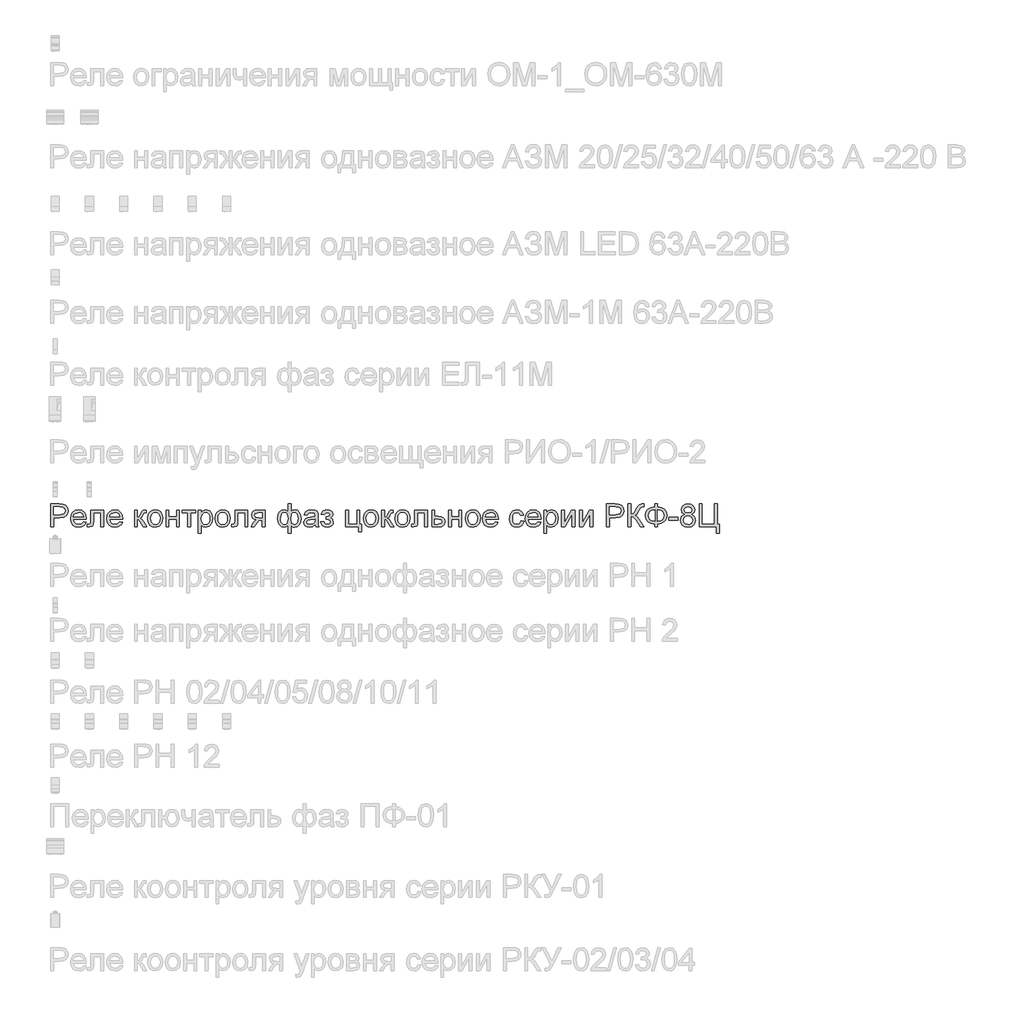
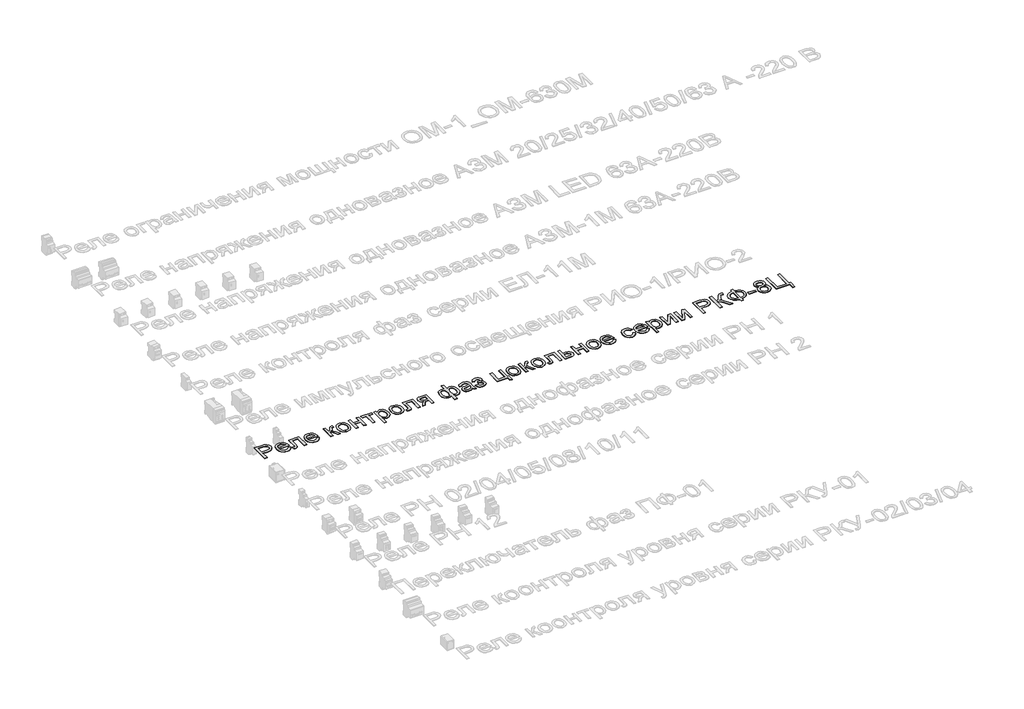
# One storey, part 9 of 34: 1 proxy.
"""IFC4 building model written with IfcOpenShell, lengths in millimetres."""

from ifc_helpers import new_model, si_unit, frame, origin, place, context, project, spatial, polyline, outline, extrude, element, save

model = new_model("IFC4")

# Units and contexts
model_context = context("Model", 3, world=origin())
ifc_project = project(units=[si_unit("LENGTHUNIT", "METRE", prefix="MILLI")], contexts=[model_context])

# Site, building, storey
site = spatial("IfcSite", under=ifc_project)
building = spatial("IfcBuilding", under=site)
storey = spatial("IfcBuildingStorey", under=building, Name="Этаж 01", Elevation=0.0)

# Proxy
placement = place(None, origin())
element("IfcBuildingElementProxy", 1, Name="Надпись на модели 1", ObjectType="Надпись на модели 1", at=placement, inside=storey, context=model_context, shape_type="SweptSolid", body=[
    extrude(outline(polyline([(-19039.0125911, 10706.235284), (-19039.0125911, 10806.6915941), (-19001.7829332, 10806.6915941), (-18986.7733478, 10805.735101), (-18974.5719283, 10801.0384742), (-18966.6624654, 10791.3263895), (-18963.6703585, 10777.6289165), (-18965.6906438, 10765.7892476), (-18971.7514996, 10755.9238788), (-18983.0853308, 10749.2652147), (-19000.9245418, 10747.04566), (-19026.4555523, 10747.04566), (-19026.4555523, 10706.235284), (-19039.0125911, 10706.235284)]), holes=[polyline([(-19026.4555523, 10759.6026988), (-19000.1887779, 10759.6026988), (-18981.6965762, 10764.2134864), (-18977.594692, 10769.7623732), (-18976.2273972, 10777.1874581), (-18979.4524961, 10787.5862559), (-18987.9260447, 10793.2761641), (-19000.4830834, 10794.1345554), (-19026.4555523, 10794.1345554), (-19026.4555523, 10759.6026988)])]), frame((0.0, 0.0, 40.0), z_axis=(0.0, 0.0, 1.0), x_axis=(1.0, 0.0, 0.0)), (0.0, 0.0, 1.0), 2.0),
    extrude(outline(polyline([(-18896.3234279, 10728.2101018), (-18884.0116438, 10726.640472), (-18888.4476875, 10717.3637143), (-18895.5263502, 10710.4291387), (-18905.0882164, 10706.1065253), (-18916.9738705, 10704.6656541), (-18931.7075445, 10707.1519233), (-18943.0444413, 10714.6107308), (-18950.2733225, 10726.5576985), (-18952.6829495, 10742.5084487), (-18950.248797, 10758.9956935), (-18942.9463394, 10771.3258717), (-18931.7627268, 10779.0146054), (-18917.6851091, 10781.5775166), (-18904.0458841, 10779.0207367), (-18893.14738, 10771.3503971), (-18886.0012722, 10759.0447444), (-18883.6192363, 10742.5820251), (-18883.6928127, 10739.1975108), (-18940.1259108, 10739.1975108), (-18937.9523413, 10729.7981258), (-18932.9031609, 10722.8880756), (-18925.6160317, 10718.6390386), (-18916.7286159, 10717.2226929), (-18904.4168318, 10719.8469178), (-18896.3234279, 10728.2101018)]), holes=[polyline([(-18940.1259108, 10751.7545495), (-18896.1762751, 10751.7545495), (-18901.2039957, 10763.1343659), (-18908.5248474, 10767.5489499), (-18917.73416, 10769.0204778), (-18933.1974665, 10764.323851), (-18938.0627059, 10758.8332123), (-18940.1259108, 10751.7545495)])]), frame((0.0, 0.0, 40.0), z_axis=(0.0, 0.0, 1.0), x_axis=(1.0, 0.0, 0.0)), (0.0, 0.0, 1.0), 2.0),
    extrude(outline(polyline([(-18864.7836782, 10780.0078868), (-18808.2770037, 10780.0078868), (-18808.2770037, 10706.3088604), (-18820.8340425, 10706.3088604), (-18820.8340425, 10767.450848), (-18852.2266394, 10767.450848), (-18852.2266394, 10732.2568038), (-18853.072768, 10716.0209451), (-18857.7203439, 10709.1660772), (-18868.7077528, 10706.235284), (-18878.9103468, 10706.8729461), (-18878.9103468, 10718.7923228), (-18873.294015, 10718.7923228), (-18867.6163695, 10719.564875), (-18865.3477639, 10722.0174216), (-18864.7836782, 10732.9680423), (-18864.7836782, 10780.0078868)])), frame((0.0, 0.0, 40.0), z_axis=(0.0, 0.0, 1.0), x_axis=(1.0, 0.0, 0.0)), (0.0, 0.0, 1.0), 2.0),
    extrude(outline(polyline([(-18737.7908134, 10728.2101018), (-18725.4790293, 10726.640472), (-18729.915073, 10717.3637143), (-18736.9937358, 10710.4291387), (-18746.555602, 10706.1065253), (-18758.4412561, 10704.6656541), (-18773.17493, 10707.1519233), (-18784.5118268, 10714.6107308), (-18791.740708, 10726.5576985), (-18794.1503351, 10742.5084487), (-18791.7161826, 10758.9956935), (-18784.4137249, 10771.3258717), (-18773.2301123, 10779.0146054), (-18759.1524946, 10781.5775166), (-18745.5132696, 10779.0207367), (-18734.6147655, 10771.3503971), (-18727.4686578, 10759.0447444), (-18725.0866219, 10742.5820251), (-18725.1601983, 10739.1975108), (-18781.5932963, 10739.1975108), (-18779.4197269, 10729.7981258), (-18774.3705465, 10722.8880756), (-18767.0834173, 10718.6390386), (-18758.1960014, 10717.2226929), (-18745.8842173, 10719.8469178), (-18737.7908134, 10728.2101018)]), holes=[polyline([(-18781.5932963, 10751.7545495), (-18737.6436606, 10751.7545495), (-18742.6713812, 10763.1343659), (-18749.9922329, 10767.5489499), (-18759.2015455, 10769.0204778), (-18774.6648521, 10764.323851), (-18779.5300915, 10758.8332123), (-18781.5932963, 10751.7545495)])]), frame((0.0, 0.0, 40.0), z_axis=(0.0, 0.0, 1.0), x_axis=(1.0, 0.0, 0.0)), (0.0, 0.0, 1.0), 2.0),
    extrude(outline(polyline([(-18673.2888369, 10780.0078868), (-18660.7317982, 10780.0078868), (-18660.7317982, 10748.6152898), (-18652.3195632, 10750.8716327), (-18645.4279072, 10764.0172827), (-18639.7012108, 10775.3603109), (-18634.6489647, 10779.0513936), (-18625.4641776, 10780.0078868), (-18623.0606819, 10780.0078868), (-18623.0606819, 10767.3772716), (-18626.4451962, 10767.450848), (-18632.5765628, 10766.1264728), (-18636.8930449, 10757.8613906), (-18641.9575537, 10748.9218582), (-18649.0576762, 10744.5440624), (-18641.1359506, 10739.6573633), (-18633.3613777, 10729.3627988), (-18619.9214222, 10706.235284), (-18634.1952436, 10706.235284), (-18647.365419, 10728.8722894), (-18653.9872949, 10738.449484), (-18660.7317982, 10740.7671406), (-18660.7317982, 10706.235284), (-18673.2888369, 10706.235284), (-18673.2888369, 10780.0078868)])), frame((0.0, 0.0, 40.0), z_axis=(0.0, 0.0, 1.0), x_axis=(1.0, 0.0, 0.0)), (0.0, 0.0, 1.0), 2.0),
    extrude(outline(polyline([(-18615.2125326, 10743.1215854), (-18612.4963372, 10760.9086798), (-18604.347751, 10773.4105363), (-18594.2800471, 10779.5357715), (-18582.2257804, 10781.5775166), (-18569.0341452, 10779.0912475), (-18558.4973917, 10771.63244), (-18551.5904073, 10759.7897054), (-18549.2880791, 10744.151655), (-18553.3593065, 10721.8089551), (-18565.2173695, 10709.1660772), (-18582.2257804, 10704.6656541), (-18595.5768311, 10707.1427262), (-18606.1013219, 10714.5739426), (-18612.9347299, 10726.6649975), (-18615.2125326, 10743.1215854)]), holes=[polyline([(-18602.6554939, 10743.1461108), (-18601.20236, 10731.7816229), (-18596.8429583, 10723.6851533), (-18590.2823961, 10718.838308), (-18582.2257804, 10717.2226929), (-18574.2059529, 10718.8475051), (-18567.6576534, 10723.7219415), (-18563.2982517, 10731.92571), (-18561.8451179, 10743.5385183), (-18563.3074488, 10754.5719125), (-18567.6944416, 10762.5580175), (-18574.2519382, 10767.4048627), (-18582.2257804, 10769.0204778), (-18590.2823961, 10767.4109941), (-18596.8429583, 10762.5825429), (-18601.20236, 10754.5044674), (-18602.6554939, 10743.1461108)])]), frame((0.0, 0.0, 40.0), z_axis=(0.0, 0.0, 1.0), x_axis=(1.0, 0.0, 0.0)), (0.0, 0.0, 1.0), 2.0),
    extrude(outline(polyline([(-18535.1614105, 10780.0078868), (-18522.6043717, 10780.0078868), (-18522.6043717, 10751.7545495), (-18489.6421449, 10751.7545495), (-18489.6421449, 10780.0078868), (-18477.0851062, 10780.0078868), (-18477.0851062, 10706.235284), (-18489.6421449, 10706.235284), (-18489.6421449, 10739.1975108), (-18522.6043717, 10739.1975108), (-18522.6043717, 10706.235284), (-18535.1614105, 10706.235284), (-18535.1614105, 10780.0078868)])), frame((0.0, 0.0, 40.0), z_axis=(0.0, 0.0, 1.0), x_axis=(1.0, 0.0, 0.0)), (0.0, 0.0, 1.0), 2.0),
    extrude(outline(polyline([(-18464.5280674, 10780.0078868), (-18404.8821333, 10780.0078868), (-18404.8821333, 10767.450848), (-18428.4265809, 10767.450848), (-18428.4265809, 10706.235284), (-18440.9836197, 10706.235284), (-18440.9836197, 10767.450848), (-18464.5280674, 10767.450848), (-18464.5280674, 10780.0078868)])), frame((0.0, 0.0, 40.0), z_axis=(0.0, 0.0, 1.0), x_axis=(1.0, 0.0, 0.0)), (0.0, 0.0, 1.0), 2.0),
    extrude(outline(polyline([(-18393.8947243, 10677.9819468), (-18393.8947243, 10780.0078868), (-18381.3376856, 10780.0078868), (-18381.3376856, 10767.6961027), (-18372.6556705, 10778.1071631), (-18360.9324976, 10781.5775166), (-18345.0154699, 10776.7214743), (-18334.6166722, 10763.036264), (-18331.1095305, 10743.6856711), (-18335.0703933, 10723.3417968), (-18346.572837, 10709.4849083), (-18362.4530765, 10704.6656541), (-18373.3791717, 10707.890753), (-18381.3376856, 10716.0454705), (-18381.3376856, 10677.9819468), (-18393.8947243, 10677.9819468)]), holes=[polyline([(-18381.3376856, 10742.5329742), (-18379.9795879, 10731.2757851), (-18375.9052948, 10723.4031104), (-18369.8934898, 10718.7677973), (-18362.7228566, 10717.2226929), (-18355.4357274, 10718.8229796), (-18349.2706383, 10723.6238396), (-18345.0675865, 10731.7846886), (-18343.6665693, 10743.4649419), (-18345.033864, 10754.6608173), (-18349.1357483, 10762.6438566), (-18355.1383561, 10767.4263225), (-18362.2078218, 10769.0204778), (-18369.3048786, 10767.325155), (-18375.5374128, 10762.2391864), (-18379.8876174, 10753.9219876), (-18381.3376856, 10742.5329742)])]), frame((0.0, 0.0, 40.0), z_axis=(0.0, 0.0, 1.0), x_axis=(1.0, 0.0, 0.0)), (0.0, 0.0, 1.0), 2.0),
    extrude(outline(polyline([(-18320.1221216, 10743.1215854), (-18317.4059262, 10760.9086798), (-18309.25734, 10773.4105363), (-18299.189636, 10779.5357715), (-18287.1353693, 10781.5775166), (-18273.9437341, 10779.0912475), (-18263.4069806, 10771.63244), (-18256.4999962, 10759.7897054), (-18254.197668, 10744.151655), (-18258.2688954, 10721.8089551), (-18270.1269584, 10709.1660772), (-18287.1353693, 10704.6656541), (-18300.4864201, 10707.1427262), (-18311.0109108, 10714.5739426), (-18317.8443189, 10726.6649975), (-18320.1221216, 10743.1215854)]), holes=[polyline([(-18307.5650828, 10743.1461108), (-18306.1119489, 10731.7816229), (-18301.7525473, 10723.6851533), (-18295.191985, 10718.838308), (-18287.1353693, 10717.2226929), (-18279.1155418, 10718.8475051), (-18272.5672423, 10723.7219415), (-18268.2078407, 10731.92571), (-18266.7547068, 10743.5385183), (-18268.2170377, 10754.5719125), (-18272.6040305, 10762.5580175), (-18279.1615271, 10767.4048627), (-18287.1353693, 10769.0204778), (-18295.191985, 10767.4109941), (-18301.7525473, 10762.5825429), (-18306.1119489, 10754.5044674), (-18307.5650828, 10743.1461108)])]), frame((0.0, 0.0, 40.0), z_axis=(0.0, 0.0, 1.0), x_axis=(1.0, 0.0, 0.0)), (0.0, 0.0, 1.0), 2.0),
    extrude(outline(polyline([(-18233.79248, 10780.0078868), (-18177.2858056, 10780.0078868), (-18177.2858056, 10706.3088604), (-18189.8428443, 10706.3088604), (-18189.8428443, 10767.450848), (-18221.2354413, 10767.450848), (-18221.2354413, 10732.2568038), (-18222.0815699, 10716.0209451), (-18226.7291457, 10709.1660772), (-18237.7165546, 10706.235284), (-18247.9191486, 10706.8729461), (-18247.9191486, 10718.7923228), (-18242.3028169, 10718.7923228), (-18236.6251714, 10719.564875), (-18234.3565658, 10722.0174216), (-18233.79248, 10732.9680423), (-18233.79248, 10780.0078868)])), frame((0.0, 0.0, 40.0), z_axis=(0.0, 0.0, 1.0), x_axis=(1.0, 0.0, 0.0)), (0.0, 0.0, 1.0), 2.0),
    extrude(outline(polyline([(-18101.943573, 10780.0078868), (-18101.943573, 10706.235284), (-18114.5006117, 10706.235284), (-18114.5006117, 10734.4886212), (-18121.3432168, 10734.4886212), (-18130.6628941, 10732.8944659), (-18139.4184855, 10722.1768371), (-18149.4248758, 10706.235284), (-18163.9439519, 10706.235284), (-18151.3378622, 10726.3952173), (-18140.6447589, 10736.843066), (-18149.2286721, 10739.4734223), (-18155.2619368, 10744.470486), (-18160.0198773, 10758.6952565), (-18158.3950651, 10767.2914325), (-18153.5206287, 10774.0972494), (-18145.5682462, 10778.5302274), (-18134.709596, 10780.0078868), (-18101.943573, 10780.0078868)]), holes=[polyline([(-18114.5006117, 10767.450848), (-18131.0553015, 10767.450848), (-18144.4584689, 10764.5445802), (-18147.4628385, 10757.7387633), (-18143.0359918, 10749.6330967), (-18127.3519561, 10747.04566), (-18114.5006117, 10747.04566), (-18114.5006117, 10767.450848)])]), frame((0.0, 0.0, 40.0), z_axis=(0.0, 0.0, 1.0), x_axis=(1.0, 0.0, 0.0)), (0.0, 0.0, 1.0), 2.0),
    extrude(outline(polyline([(-18001.4872628, 10806.6915941), (-17988.930224, 10806.6915941), (-17988.930224, 10772.920027), (-17980.9471847, 10779.4315383), (-17971.5907193, 10781.5775166), (-17960.6002447, 10778.8490585), (-17952.1542873, 10770.6636841), (-17946.7740131, 10758.3396372), (-17944.9805884, 10743.1951618), (-17946.9119688, 10727.5877681), (-17952.7061103, 10715.2974438), (-17961.3697312, 10707.3236016), (-17971.9095504, 10704.6656541), (-17979.5860214, 10705.8919275), (-17988.930224, 10712.5873798), (-17988.930224, 10677.9819468), (-18001.4872628, 10677.9819468), (-18001.4872628, 10712.5873798), (-18009.5070903, 10706.6522169), (-18018.9984458, 10704.6656541), (-18029.5198708, 10707.2040399), (-18038.6188189, 10714.8191972), (-18044.909601, 10727.1616382), (-18047.0065283, 10743.8818748), (-18045.1088704, 10758.603286), (-18039.4158965, 10770.7372605), (-18030.5162179, 10778.8674526), (-18018.9984458, 10781.5775166), (-18009.2740984, 10779.4315383), (-18001.4872628, 10772.920027), (-18001.4872628, 10806.6915941)]), holes=[polyline([(-17989.0038004, 10742.9008562), (-17984.8222084, 10722.45888), (-17974.3375716, 10717.2226929), (-17967.8843082, 10718.8321766), (-17962.4549831, 10723.6606278), (-17958.7669661, 10731.8797247), (-17957.5376271, 10743.6611456), (-17962.0748384, 10762.7419585), (-17967.2558432, 10767.450848), (-17973.7244349, 10769.0204778), (-17980.3861647, 10767.3864686), (-17985.165565, 10762.4844411), (-17989.0038004, 10742.9008562)]), polyline([(-18034.4494896, 10744.151655), (-18033.1925594, 10731.8337395), (-18029.421769, 10723.5257378), (-18023.7870431, 10718.7984541), (-18016.9383066, 10717.2226929), (-18010.1232927, 10718.7892571), (-18005.2764474, 10723.4889496), (-18001.4136864, 10742.2877195), (-18005.4726511, 10762.3372883), (-18010.564751, 10767.3496804), (-18017.7231215, 10769.0204778), (-18024.4430993, 10767.3895343), (-18029.789651, 10762.4967038), (-18034.4494896, 10744.151655)])]), frame((0.0, 0.0, 40.0), z_axis=(0.0, 0.0, 1.0), x_axis=(1.0, 0.0, 0.0)), (0.0, 0.0, 1.0), 2.0),
    extrude(outline(polyline([(-17882.1953945, 10715.6530631), (-17894.3722886, 10707.1427262), (-17907.8245068, 10704.6656541), (-17918.3183408, 10706.1555762), (-17926.0591911, 10710.6253425), (-17930.83246, 10717.4127653), (-17932.4235496, 10725.8556571), (-17930.0200539, 10735.7884709), (-17923.7047463, 10742.998958), (-17914.9123666, 10747.1192364), (-17904.047585, 10749.0076973), (-17882.2689709, 10753.3241794), (-17882.1953945, 10756.1200825), (-17885.6534853, 10765.3907088), (-17899.5348992, 10769.0204778), (-17912.2390908, 10766.6047194), (-17918.296881, 10758.0330689), (-17930.8539197, 10759.6026988), (-17925.4215289, 10771.8654319), (-17914.483171, 10779.0513936), (-17897.9162184, 10781.5775166), (-17882.6981666, 10779.3456992), (-17874.1019906, 10773.7416301), (-17870.2514924, 10765.2190306), (-17869.6383557, 10754.2316216), (-17869.6383557, 10738.6088996), (-17869.0006936, 10716.7934973), (-17866.499096, 10706.235284), (-17879.0561348, 10706.235284), (-17882.1953945, 10715.6530631)]), holes=[polyline([(-17882.1953945, 10740.7671406), (-17902.4534297, 10736.9166424), (-17913.2568976, 10734.8810287), (-17918.1497282, 10731.5700907), (-17919.8665108, 10726.7385739), (-17916.1263772, 10719.9450197), (-17905.151231, 10717.2226929), (-17892.4470394, 10720.2270625), (-17884.2555337, 10727.4988633), (-17882.2689709, 10737.210948), (-17882.1953945, 10740.7671406)])]), frame((0.0, 0.0, 40.0), z_axis=(0.0, 0.0, 1.0), x_axis=(1.0, 0.0, 0.0)), (0.0, 0.0, 1.0), 2.0),
    extrude(outline(polyline([(-17835.1064991, 10739.1975108), (-17835.1064991, 10751.7545495), (-17825.1982107, 10752.2450589), (-17820.1950156, 10754.857021), (-17817.8405708, 10760.3139373), (-17820.9920932, 10766.6537703), (-17829.1222853, 10769.0204778), (-17837.5222576, 10766.6660331), (-17842.9546484, 10759.6026988), (-17857.081317, 10761.1723286), (-17847.6390124, 10776.4762196), (-17830.3976096, 10781.5775166), (-17819.90071, 10780.0232152), (-17811.9544589, 10775.3603109), (-17806.9512638, 10768.5391656), (-17805.2835321, 10760.510141), (-17807.6563709, 10752.7110427), (-17814.7748875, 10746.677778), (-17806.4730172, 10738.8541542), (-17803.7139022, 10727.5969652), (-17805.4644074, 10718.3539301), (-17810.7159228, 10711.0300127), (-17819.1128294, 10706.2567438), (-17830.2995077, 10704.6656541), (-17841.2409314, 10706.1371821), (-17849.6133125, 10710.5517661), (-17855.4166509, 10717.909406), (-17858.6509468, 10728.2101018), (-17844.5242782, 10729.7797317), (-17838.8588955, 10720.5091054), (-17829.0977599, 10717.2226929), (-17819.9252355, 10720.3742153), (-17816.270941, 10728.430831), (-17818.5395466, 10735.0281815), (-17823.3710635, 10738.5598486), (-17832.6539525, 10739.2710872), (-17835.1064991, 10739.1975108)])), frame((0.0, 0.0, 40.0), z_axis=(0.0, 0.0, 1.0), x_axis=(1.0, 0.0, 0.0)), (0.0, 0.0, 1.0), 2.0),
    extrude(outline(polyline([(-17748.7768576, 10780.0078868), (-17736.2198188, 10780.0078868), (-17736.2198188, 10718.7923228), (-17700.1183324, 10718.7923228), (-17700.1183324, 10780.0078868), (-17687.5612936, 10780.0078868), (-17687.5612936, 10718.7923228), (-17679.7131444, 10718.7923228), (-17679.7131444, 10685.830096), (-17692.2701831, 10685.830096), (-17692.2701831, 10706.235284), (-17748.7768576, 10706.235284), (-17748.7768576, 10780.0078868)])), frame((0.0, 0.0, 40.0), z_axis=(0.0, 0.0, 1.0), x_axis=(1.0, 0.0, 0.0)), (0.0, 0.0, 1.0), 2.0),
    extrude(outline(polyline([(-17671.8649951, 10743.1215854), (-17669.1487997, 10760.9086798), (-17661.0002135, 10773.4105363), (-17650.9325096, 10779.5357715), (-17638.8782429, 10781.5775166), (-17625.6866077, 10779.0912475), (-17615.1498542, 10771.63244), (-17608.2428698, 10759.7897054), (-17605.9405416, 10744.151655), (-17610.011769, 10721.8089551), (-17621.869832, 10709.1660772), (-17638.8782429, 10704.6656541), (-17652.2292936, 10707.1427262), (-17662.7537844, 10714.5739426), (-17669.5871924, 10726.6649975), (-17671.8649951, 10743.1215854)]), holes=[polyline([(-17659.3079564, 10743.1461108), (-17657.8548225, 10731.7816229), (-17653.4954208, 10723.6851533), (-17646.9348586, 10718.838308), (-17638.8782429, 10717.2226929), (-17630.8584154, 10718.8475051), (-17624.3101159, 10723.7219415), (-17619.9507142, 10731.92571), (-17618.4975804, 10743.5385183), (-17619.9599113, 10754.5719125), (-17624.3469041, 10762.5580175), (-17630.9044007, 10767.4048627), (-17638.8782429, 10769.0204778), (-17646.9348586, 10767.4109941), (-17653.4954208, 10762.5825429), (-17657.8548225, 10754.5044674), (-17659.3079564, 10743.1461108)])]), frame((0.0, 0.0, 40.0), z_axis=(0.0, 0.0, 1.0), x_axis=(1.0, 0.0, 0.0)), (0.0, 0.0, 1.0), 2.0),
    extrude(outline(polyline([(-17591.813873, 10780.0078868), (-17579.2568342, 10780.0078868), (-17579.2568342, 10748.6152898), (-17570.8445993, 10750.8716327), (-17563.9529432, 10764.0172827), (-17558.2262468, 10775.3603109), (-17553.1740008, 10779.0513936), (-17543.9892136, 10780.0078868), (-17541.5857179, 10780.0078868), (-17541.5857179, 10767.3772716), (-17544.9702323, 10767.450848), (-17551.1015989, 10766.1264728), (-17555.4180809, 10757.8613906), (-17560.4825897, 10748.9218582), (-17567.5827122, 10744.5440624), (-17559.6609866, 10739.6573633), (-17551.8864138, 10729.3627988), (-17538.4464582, 10706.235284), (-17552.7202796, 10706.235284), (-17565.8904551, 10728.8722894), (-17572.512331, 10738.449484), (-17579.2568342, 10740.7671406), (-17579.2568342, 10706.235284), (-17591.813873, 10706.235284), (-17591.813873, 10780.0078868)])), frame((0.0, 0.0, 40.0), z_axis=(0.0, 0.0, 1.0), x_axis=(1.0, 0.0, 0.0)), (0.0, 0.0, 1.0), 2.0),
    extrude(outline(polyline([(-17533.7375687, 10743.1215854), (-17531.0213733, 10760.9086798), (-17522.8727871, 10773.4105363), (-17512.8050832, 10779.5357715), (-17500.7508164, 10781.5775166), (-17487.5591812, 10779.0912475), (-17477.0224278, 10771.63244), (-17470.1154433, 10759.7897054), (-17467.8131151, 10744.151655), (-17471.8843426, 10721.8089551), (-17483.7424055, 10709.1660772), (-17500.7508164, 10704.6656541), (-17514.1018672, 10707.1427262), (-17524.6263579, 10714.5739426), (-17531.459766, 10726.6649975), (-17533.7375687, 10743.1215854)]), holes=[polyline([(-17521.1805299, 10743.1461108), (-17519.727396, 10731.7816229), (-17515.3679944, 10723.6851533), (-17508.8074321, 10718.838308), (-17500.7508164, 10717.2226929), (-17492.730989, 10718.8475051), (-17486.1826894, 10723.7219415), (-17481.8232878, 10731.92571), (-17480.3701539, 10743.5385183), (-17481.8324848, 10754.5719125), (-17486.2194776, 10762.5580175), (-17492.7769742, 10767.4048627), (-17500.7508164, 10769.0204778), (-17508.8074321, 10767.4109941), (-17515.3679944, 10762.5825429), (-17519.727396, 10754.5044674), (-17521.1805299, 10743.1461108)])]), frame((0.0, 0.0, 40.0), z_axis=(0.0, 0.0, 1.0), x_axis=(1.0, 0.0, 0.0)), (0.0, 0.0, 1.0), 2.0),
    extrude(outline(polyline([(-17447.4079271, 10780.0078868), (-17390.9012527, 10780.0078868), (-17390.9012527, 10706.3088604), (-17403.4582915, 10706.3088604), (-17403.4582915, 10767.450848), (-17434.8508884, 10767.450848), (-17434.8508884, 10732.2568038), (-17435.697017, 10716.0209451), (-17440.3445928, 10709.1660772), (-17451.3320018, 10706.235284), (-17461.5345958, 10706.8729461), (-17461.5345958, 10718.7923228), (-17455.918264, 10718.7923228), (-17450.2406185, 10719.564875), (-17447.9720129, 10722.0174216), (-17447.4079271, 10732.9680423), (-17447.4079271, 10780.0078868)])), frame((0.0, 0.0, 40.0), z_axis=(0.0, 0.0, 1.0), x_axis=(1.0, 0.0, 0.0)), (0.0, 0.0, 1.0), 2.0),
    extrude(outline(polyline([(-17372.0656945, 10780.0078868), (-17359.5086558, 10780.0078868), (-17359.5086558, 10753.3241794), (-17345.0386306, 10753.3241794), (-17332.4938546, 10751.7514838), (-17323.2109656, 10747.0333973), (-17317.4720064, 10739.5500643), (-17315.5590201, 10729.6816298), (-17317.1868979, 10720.6961121), (-17322.0705314, 10713.1146773), (-17330.534883, 10707.9551323), (-17342.904915, 10706.235284), (-17372.0656945, 10706.235284), (-17372.0656945, 10780.0078868)]), holes=[polyline([(-17359.5086558, 10718.7923228), (-17347.7854829, 10718.7923228), (-17332.6410074, 10721.4288104), (-17328.1160588, 10729.6571044), (-17331.463785, 10737.3826263), (-17346.2894294, 10740.7671406), (-17359.5086558, 10740.7671406), (-17359.5086558, 10718.7923228)])]), frame((0.0, 0.0, 40.0), z_axis=(0.0, 0.0, 1.0), x_axis=(1.0, 0.0, 0.0)), (0.0, 0.0, 1.0), 2.0),
    extrude(outline(polyline([(-17299.8627216, 10780.0078868), (-17287.3056828, 10780.0078868), (-17287.3056828, 10751.7545495), (-17254.3434561, 10751.7545495), (-17254.3434561, 10780.0078868), (-17241.7864173, 10780.0078868), (-17241.7864173, 10706.235284), (-17254.3434561, 10706.235284), (-17254.3434561, 10739.1975108), (-17287.3056828, 10739.1975108), (-17287.3056828, 10706.235284), (-17299.8627216, 10706.235284), (-17299.8627216, 10780.0078868)])), frame((0.0, 0.0, 40.0), z_axis=(0.0, 0.0, 1.0), x_axis=(1.0, 0.0, 0.0)), (0.0, 0.0, 1.0), 2.0),
    extrude(outline(polyline([(-17226.0901188, 10743.1215854), (-17223.3739234, 10760.9086798), (-17215.2253373, 10773.4105363), (-17205.1576333, 10779.5357715), (-17193.1033666, 10781.5775166), (-17179.9117314, 10779.0912475), (-17169.3749779, 10771.63244), (-17162.4679935, 10759.7897054), (-17160.1656653, 10744.151655), (-17164.2368927, 10721.8089551), (-17176.0949557, 10709.1660772), (-17193.1033666, 10704.6656541), (-17206.4544174, 10707.1427262), (-17216.9789081, 10714.5739426), (-17223.8123162, 10726.6649975), (-17226.0901188, 10743.1215854)]), holes=[polyline([(-17213.5330801, 10743.1461108), (-17212.0799462, 10731.7816229), (-17207.7205446, 10723.6851533), (-17201.1599823, 10718.838308), (-17193.1033666, 10717.2226929), (-17185.0835391, 10718.8475051), (-17178.5352396, 10723.7219415), (-17174.175838, 10731.92571), (-17172.7227041, 10743.5385183), (-17174.185035, 10754.5719125), (-17178.5720278, 10762.5580175), (-17185.1295244, 10767.4048627), (-17193.1033666, 10769.0204778), (-17201.1599823, 10767.4109941), (-17207.7205446, 10762.5825429), (-17212.0799462, 10754.5044674), (-17213.5330801, 10743.1461108)])]), frame((0.0, 0.0, 40.0), z_axis=(0.0, 0.0, 1.0), x_axis=(1.0, 0.0, 0.0)), (0.0, 0.0, 1.0), 2.0),
    extrude(outline(polyline([(-17094.3883646, 10728.2101018), (-17082.0765805, 10726.640472), (-17086.5126242, 10717.3637143), (-17093.5912869, 10710.4291387), (-17103.1531531, 10706.1065253), (-17115.0388072, 10704.6656541), (-17129.7724811, 10707.1519233), (-17141.109378, 10714.6107308), (-17148.3382592, 10726.5576985), (-17150.7478862, 10742.5084487), (-17148.3137337, 10758.9956935), (-17141.0112761, 10771.3258717), (-17129.8276634, 10779.0146054), (-17115.7500458, 10781.5775166), (-17102.1108208, 10779.0207367), (-17091.2123167, 10771.3503971), (-17084.0662089, 10759.0447444), (-17081.684173, 10742.5820251), (-17081.7577494, 10739.1975108), (-17138.1908475, 10739.1975108), (-17136.017278, 10729.7981258), (-17130.9680976, 10722.8880756), (-17123.6809684, 10718.6390386), (-17114.7935526, 10717.2226929), (-17102.4817685, 10719.8469178), (-17094.3883646, 10728.2101018)]), holes=[polyline([(-17138.1908475, 10751.7545495), (-17094.2412118, 10751.7545495), (-17099.2689324, 10763.1343659), (-17106.5897841, 10767.5489499), (-17115.7990967, 10769.0204778), (-17131.2624032, 10764.323851), (-17136.1276426, 10758.8332123), (-17138.1908475, 10751.7545495)])]), frame((0.0, 0.0, 40.0), z_axis=(0.0, 0.0, 1.0), x_axis=(1.0, 0.0, 0.0)), (0.0, 0.0, 1.0), 2.0),
    extrude(outline(polyline([(-16982.7974927, 10732.9189914), (-16970.2404539, 10731.3493615), (-16973.7414643, 10720.1810773), (-16980.3204206, 10711.7412512), (-16989.3580549, 10706.4345534), (-17000.2350993, 10704.6656541), (-17013.5922814, 10707.1335292), (-17024.0370644, 10714.5371544), (-17030.7785019, 10726.5515672), (-17033.0256478, 10742.8518052), (-17029.1874123, 10763.7107144), (-17017.4887648, 10777.1138817), (-17000.4067775, 10781.5775166), (-16989.7964477, 10780.044675), (-16981.313702, 10775.44615), (-16975.2283207, 10768.0271964), (-16971.8100838, 10758.0330689), (-16984.3671225, 10756.4634391), (-16990.1919208, 10765.8689554), (-17000.3086757, 10769.0204778), (-17008.4235393, 10767.4692421), (-17014.8645399, 10762.8155349), (-17019.0675917, 10754.8079701), (-17020.468609, 10743.1951618), (-17019.0982486, 10731.4260036), (-17014.9871673, 10723.3908477), (-17008.6626626, 10718.7647316), (-17000.6520322, 10717.2226929), (-16988.8184947, 10721.0731911), (-16982.7974927, 10732.9189914)])), frame((0.0, 0.0, 40.0), z_axis=(0.0, 0.0, 1.0), x_axis=(1.0, 0.0, 0.0)), (0.0, 0.0, 1.0), 2.0),
    extrude(outline(polyline([(-16907.6024129, 10728.2101018), (-16895.2906288, 10726.640472), (-16899.7266725, 10717.3637143), (-16906.8053352, 10710.4291387), (-16916.3672014, 10706.1065253), (-16928.2528556, 10704.6656541), (-16942.9865295, 10707.1519233), (-16954.3234263, 10714.6107308), (-16961.5523075, 10726.5576985), (-16963.9619345, 10742.5084487), (-16961.527782, 10758.9956935), (-16954.2253244, 10771.3258717), (-16943.0417118, 10779.0146054), (-16928.9640941, 10781.5775166), (-16915.3248691, 10779.0207367), (-16904.426365, 10771.3503971), (-16897.2802572, 10759.0447444), (-16894.8982213, 10742.5820251), (-16894.9717977, 10739.1975108), (-16951.4048958, 10739.1975108), (-16949.2313263, 10729.7981258), (-16944.1821459, 10722.8880756), (-16936.8950168, 10718.6390386), (-16928.0076009, 10717.2226929), (-16915.6958168, 10719.8469178), (-16907.6024129, 10728.2101018)]), holes=[polyline([(-16951.4048958, 10751.7545495), (-16907.4552601, 10751.7545495), (-16912.4829807, 10763.1343659), (-16919.8038324, 10767.5489499), (-16929.013145, 10769.0204778), (-16944.4764515, 10764.323851), (-16949.3416909, 10758.8332123), (-16951.4048958, 10751.7545495)])]), frame((0.0, 0.0, 40.0), z_axis=(0.0, 0.0, 1.0), x_axis=(1.0, 0.0, 0.0)), (0.0, 0.0, 1.0), 2.0),
    extrude(outline(polyline([(-16882.3411826, 10677.9819468), (-16882.3411826, 10780.0078868), (-16869.7841438, 10780.0078868), (-16869.7841438, 10767.6961027), (-16861.1021287, 10778.1071631), (-16849.3789558, 10781.5775166), (-16833.4619281, 10776.7214743), (-16823.0631304, 10763.036264), (-16819.5559887, 10743.6856711), (-16823.5168515, 10723.3417968), (-16835.0192952, 10709.4849083), (-16850.8995347, 10704.6656541), (-16861.82563, 10707.890753), (-16869.7841438, 10716.0454705), (-16869.7841438, 10677.9819468), (-16882.3411826, 10677.9819468)]), holes=[polyline([(-16869.7841438, 10742.5329742), (-16868.4260461, 10731.2757851), (-16864.351753, 10723.4031104), (-16858.3399481, 10718.7677973), (-16851.1693148, 10717.2226929), (-16843.8821856, 10718.8229796), (-16837.7170965, 10723.6238396), (-16833.5140447, 10731.7846886), (-16832.1130275, 10743.4649419), (-16833.4803222, 10754.6608173), (-16837.5822065, 10762.6438566), (-16843.5848144, 10767.4263225), (-16850.65428, 10769.0204778), (-16857.7513369, 10767.325155), (-16863.983871, 10762.2391864), (-16868.3340756, 10753.9219876), (-16869.7841438, 10742.5329742)])]), frame((0.0, 0.0, 40.0), z_axis=(0.0, 0.0, 1.0), x_axis=(1.0, 0.0, 0.0)), (0.0, 0.0, 1.0), 2.0),
    extrude(outline(polyline([(-16805.4293201, 10780.0078868), (-16792.8722813, 10780.0078868), (-16792.8722813, 10723.746467), (-16762.0192447, 10780.0078868), (-16745.7833859, 10780.0078868), (-16745.7833859, 10706.235284), (-16758.3404247, 10706.235284), (-16758.3404247, 10762.1533473), (-16788.9972576, 10706.235284), (-16805.4293201, 10706.235284), (-16805.4293201, 10780.0078868)])), frame((0.0, 0.0, 40.0), z_axis=(0.0, 0.0, 1.0), x_axis=(1.0, 0.0, 0.0)), (0.0, 0.0, 1.0), 2.0),
    extrude(outline(polyline([(-16726.9478278, 10780.0078868), (-16714.390789, 10780.0078868), (-16714.390789, 10723.746467), (-16683.5377524, 10780.0078868), (-16667.3018936, 10780.0078868), (-16667.3018936, 10706.235284), (-16679.8589324, 10706.235284), (-16679.8589324, 10762.1533473), (-16710.5157653, 10706.235284), (-16726.9478278, 10706.235284), (-16726.9478278, 10780.0078868)])), frame((0.0, 0.0, 40.0), z_axis=(0.0, 0.0, 1.0), x_axis=(1.0, 0.0, 0.0)), (0.0, 0.0, 1.0), 2.0),
    extrude(outline(polyline([(-16607.6559595, 10706.235284), (-16607.6559595, 10806.6915941), (-16570.4263016, 10806.6915941), (-16555.4167162, 10805.735101), (-16543.2152967, 10801.0384742), (-16535.3058338, 10791.3263895), (-16532.3137269, 10777.6289165), (-16534.3340122, 10765.7892476), (-16540.394868, 10755.9238788), (-16551.7286992, 10749.2652147), (-16569.5679103, 10747.04566), (-16595.0989207, 10747.04566), (-16595.0989207, 10706.235284), (-16607.6559595, 10706.235284)]), holes=[polyline([(-16595.0989207, 10759.6026988), (-16568.8321463, 10759.6026988), (-16550.3399446, 10764.2134864), (-16546.2380604, 10769.7623732), (-16544.8707656, 10777.1874581), (-16548.0958645, 10787.5862559), (-16556.5694131, 10793.2761641), (-16569.1264519, 10794.1345554), (-16595.0989207, 10794.1345554), (-16595.0989207, 10759.6026988)])]), frame((0.0, 0.0, 40.0), z_axis=(0.0, 0.0, 1.0), x_axis=(1.0, 0.0, 0.0)), (0.0, 0.0, 1.0), 2.0),
    extrude(outline(polyline([(-16515.0477986, 10806.6915941), (-16502.4907598, 10806.6915941), (-16502.4907598, 10762.7419585), (-16488.4499303, 10766.0651591), (-16478.6520065, 10782.8773663), (-16471.7235623, 10796.9181958), (-16463.875413, 10803.8711655), (-16452.6550122, 10806.6915941), (-16444.4144555, 10806.5444413), (-16444.4144555, 10793.9874026), (-16447.1858332, 10794.060979), (-16449.9572109, 10794.1345554), (-16459.7673974, 10791.117923), (-16467.2231392, 10778.1930022), (-16476.1136207, 10762.4476529), (-16484.7833731, 10757.248254), (-16475.0896825, 10751.5706085), (-16465.530882, 10739.737071), (-16444.4144555, 10706.235284), (-16458.9825825, 10706.235284), (-16476.837122, 10734.5376722), (-16489.4064235, 10749.3142656), (-16502.4907598, 10753.3241794), (-16502.4907598, 10706.235284), (-16515.0477986, 10706.235284), (-16515.0477986, 10806.6915941)])), frame((0.0, 0.0, 40.0), z_axis=(0.0, 0.0, 1.0), x_axis=(1.0, 0.0, 0.0)), (0.0, 0.0, 1.0), 2.0),
    extrude(outline(polyline([(-16397.3255601, 10794.1345554), (-16397.3255601, 10806.6915941), (-16384.7685213, 10806.6915941), (-16384.7685213, 10794.1345554), (-16367.8490152, 10790.7377783), (-16354.9087661, 10782.6075862), (-16346.6958005, 10770.829231), (-16343.9581453, 10756.4879645), (-16346.6099614, 10742.37969), (-16354.5654095, 10730.5645466), (-16367.4198196, 10722.2872017), (-16384.7685213, 10718.7923228), (-16384.7685213, 10706.235284), (-16397.3255601, 10706.235284), (-16397.3255601, 10718.7923228), (-16413.3713465, 10721.848809), (-16426.4863396, 10729.6448416), (-16435.223537, 10741.4385252), (-16438.1359361, 10756.4879645), (-16435.232734, 10771.5833891), (-16426.5231278, 10783.3188247), (-16413.4173317, 10791.050478), (-16397.3255601, 10794.1345554)]), holes=[polyline([(-16384.7685213, 10781.5775166), (-16384.7685213, 10731.3493615), (-16373.020823, 10733.4248291), (-16364.0690277, 10738.4740095), (-16358.403645, 10746.2393853), (-16356.5151841, 10756.4634391), (-16358.3699225, 10766.5495371), (-16363.9341377, 10774.2934531), (-16372.8522104, 10779.4008815), (-16384.7685213, 10781.5775166)]), polyline([(-16397.3255601, 10781.5775166), (-16408.7513617, 10779.5664284), (-16417.7675363, 10774.5632332), (-16423.6260571, 10766.7886604), (-16425.5788973, 10756.4634391), (-16423.6505826, 10746.2148598), (-16417.8656382, 10738.4249586), (-16408.8739891, 10733.3757782), (-16397.3255601, 10731.3493615), (-16397.3255601, 10781.5775166)])]), frame((0.0, 0.0, 40.0), z_axis=(0.0, 0.0, 1.0), x_axis=(1.0, 0.0, 0.0)), (0.0, 0.0, 1.0), 2.0),
    extrude(outline(polyline([(-16334.5403663, 10736.0582511), (-16334.5403663, 10748.6152898), (-16295.2996201, 10748.6152898), (-16295.2996201, 10736.0582511), (-16334.5403663, 10736.0582511)])), frame((0.0, 0.0, 40.0), z_axis=(0.0, 0.0, 1.0), x_axis=(1.0, 0.0, 0.0)), (0.0, 0.0, 1.0), 2.0),
    extrude(outline(polyline([(-16266.0162133, 10761.5647361), (-16277.4573434, 10769.3638344), (-16281.1729515, 10781.5039402), (-16279.1496005, 10791.3202581), (-16273.0795476, 10799.4320561), (-16263.6433744, 10804.8767096), (-16251.5216627, 10806.6915941), (-16239.3263746, 10804.8337901), (-16229.767574, 10799.2603778), (-16223.5871565, 10791.0198211), (-16221.5270174, 10781.1605837), (-16225.1935746, 10769.3270462), (-16236.3158736, 10761.5647361), (-16222.9617571, 10751.7177613), (-16218.3877577, 10735.4696399), (-16220.6563633, 10723.4644241), (-16227.4621802, 10713.543873), (-16237.9713425, 10706.8852089), (-16251.3499844, 10704.6656541), (-16264.7286263, 10706.8944059), (-16275.2377886, 10713.5806612), (-16282.0436056, 10723.5962485), (-16284.3122112, 10735.8129964), (-16279.5542707, 10752.4412626), (-16266.0162133, 10761.5647361)]), holes=[polyline([(-16268.6159127, 10781.1360582), (-16264.1645406, 10771.2768207), (-16251.2028316, 10767.450848), (-16238.4986401, 10771.2522953), (-16234.0840561, 10780.5719725), (-16238.6457929, 10790.2227435), (-16251.3499844, 10794.1345554), (-16264.0909642, 10790.3085826), (-16268.6159127, 10781.1360582)]), polyline([(-16271.7551724, 10736.2544548), (-16269.6582451, 10726.7998875), (-16262.2392915, 10719.7242905), (-16251.2518826, 10717.2226929), (-16242.7047575, 10718.537871), (-16236.2913481, 10722.4834054), (-16230.9447964, 10735.8620473), (-16236.4630264, 10749.4982066), (-16243.0235886, 10753.5449086), (-16251.6688155, 10754.8938092), (-16260.0963789, 10753.5633027), (-16266.445409, 10749.571783), (-16271.7551724, 10736.2544548)])]), frame((0.0, 0.0, 40.0), z_axis=(0.0, 0.0, 1.0), x_axis=(1.0, 0.0, 0.0)), (0.0, 0.0, 1.0), 2.0),
    extrude(outline(polyline([(-16202.6914592, 10806.6915941), (-16190.1344204, 10806.6915941), (-16190.1344204, 10718.7923228), (-16136.7670057, 10718.7923228), (-16136.7670057, 10806.6915941), (-16124.2099669, 10806.6915941), (-16124.2099669, 10718.7923228), (-16114.7921878, 10718.7923228), (-16114.7921878, 10677.9819468), (-16127.3492266, 10677.9819468), (-16127.3492266, 10706.235284), (-16202.6914592, 10706.235284), (-16202.6914592, 10806.6915941)])), frame((0.0, 0.0, 40.0), z_axis=(0.0, 0.0, 1.0), x_axis=(1.0, 0.0, 0.0)), (0.0, 0.0, 1.0), 2.0),
])

save(model, "model.ifc")
